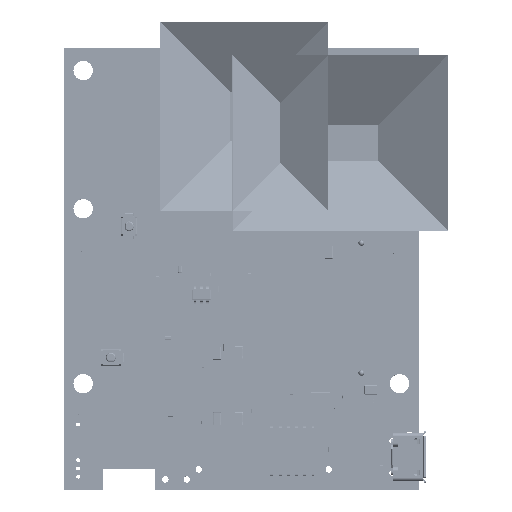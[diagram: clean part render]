
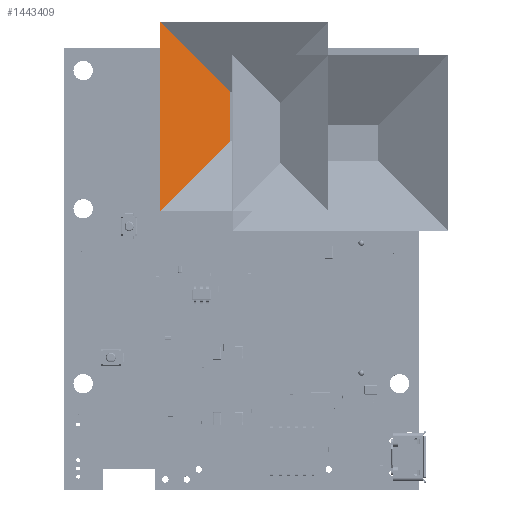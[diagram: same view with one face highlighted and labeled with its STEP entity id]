
A CAD part, top view. The second image highlights one B-rep face of the part: STEP entity #1443409.
In plain terms, the highlighted free-form (B-spline) face has degree [1, 1] with [2, 2] control points.
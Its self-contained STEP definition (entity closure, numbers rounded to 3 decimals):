
#1443215 = VERTEX_POINT('',#1443216);
#1443216 = CARTESIAN_POINT('',(25.79,61.588,0.));
#1443222 = EDGE_CURVE('',#1443215,#1443223,#1443225,.T.);
#1443223 = VERTEX_POINT('',#1443224);
#1443224 = CARTESIAN_POINT('',(25.79,54.066,0.));
#1443225 = LINE('',#1443226,#1443227);
#1443226 = CARTESIAN_POINT('',(25.79,61.588,0.));
#1443227 = VECTOR('',#1443228,1.);
#1443228 = DIRECTION('',(0.,-1.,0.));
#1443293 = EDGE_CURVE('',#1443294,#1443296,#1443298,.T.);
#1443294 = VERTEX_POINT('',#1443295);
#1443295 = CARTESIAN_POINT('',(14.965,72.413,6.25));
#1443296 = VERTEX_POINT('',#1443297);
#1443297 = CARTESIAN_POINT('',(14.965,43.241,6.25));
#1443298 = LINE('',#1443299,#1443300);
#1443299 = CARTESIAN_POINT('',(14.965,61.588,6.25));
#1443300 = VECTOR('',#1443301,1.);
#1443301 = DIRECTION('',(0.,-1.,-0.));
#1443362 = EDGE_CURVE('',#1443215,#1443294,#1443363,.T.);
#1443363 = B_SPLINE_CURVE_WITH_KNOTS('',1,(#1443364,#1443365),
  .UNSPECIFIED.,.F.,.F.,(2,2),(0.,1.),.PIECEWISE_BEZIER_KNOTS.);
#1443364 = CARTESIAN_POINT('',(25.79,61.588,0.));
#1443365 = CARTESIAN_POINT('',(14.965,72.413,6.25));
#1443400 = EDGE_CURVE('',#1443223,#1443296,#1443401,.T.);
#1443401 = B_SPLINE_CURVE_WITH_KNOTS('',1,(#1443402,#1443403),
  .UNSPECIFIED.,.F.,.F.,(2,2),(0.,1.),.PIECEWISE_BEZIER_KNOTS.);
#1443402 = CARTESIAN_POINT('',(25.79,54.066,0.));
#1443403 = CARTESIAN_POINT('',(14.965,43.241,6.25));
#1443409 = ADVANCED_FACE('',(#1443410),#1443416,.F.);
#1443410 = FACE_BOUND('',#1443411,.F.);
#1443411 = EDGE_LOOP('',(#1443412,#1443413,#1443414,#1443415));
#1443412 = ORIENTED_EDGE('',*,*,#1443222,.T.);
#1443413 = ORIENTED_EDGE('',*,*,#1443400,.T.);
#1443414 = ORIENTED_EDGE('',*,*,#1443293,.F.);
#1443415 = ORIENTED_EDGE('',*,*,#1443362,.F.);
#1443416 = B_SPLINE_SURFACE_WITH_KNOTS('',1,1,(
    (#1443417,#1443418)
    ,(#1443419,#1443420
    )),.UNSPECIFIED.,.F.,.F.,.F.,(2,2),(2,2),(-10.825,
    18.347),(0.,1.),.PIECEWISE_BEZIER_KNOTS.);
#1443417 = CARTESIAN_POINT('',(25.79,61.588,0.));
#1443418 = CARTESIAN_POINT('',(14.965,72.413,6.25));
#1443419 = CARTESIAN_POINT('',(25.79,54.066,0.));
#1443420 = CARTESIAN_POINT('',(14.965,43.241,6.25));
